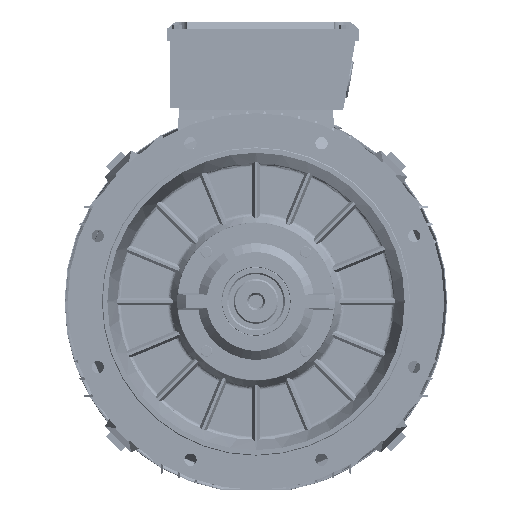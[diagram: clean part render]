
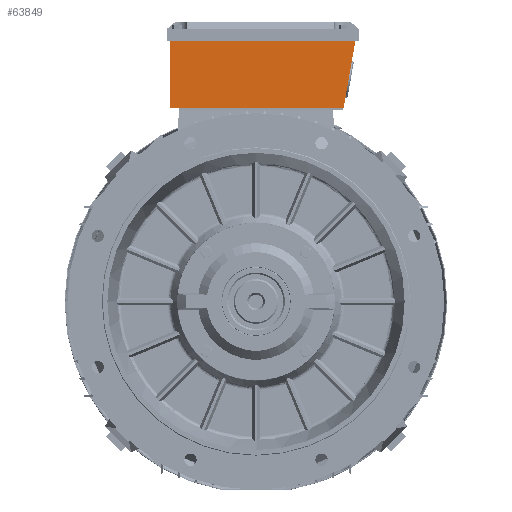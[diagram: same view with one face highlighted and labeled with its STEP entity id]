
A CAD part, left-side view. The second image highlights one B-rep face of the part: STEP entity #63849.
In plain terms, the highlighted planar face has unit normal (-1, 0, 0).
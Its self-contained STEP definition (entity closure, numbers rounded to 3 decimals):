
#10555 = VERTEX_POINT ( 'NONE', #324259 ) ;
#17192 = ORIENTED_EDGE ( 'NONE', *, *, #343020, .T. ) ;
#22545 = LINE ( 'NONE', #353106, #252942 ) ;
#23950 = ORIENTED_EDGE ( 'NONE', *, *, #281914, .T. ) ;
#29008 = FACE_OUTER_BOUND ( 'NONE', #133024, .T. ) ;
#47622 = LINE ( 'NONE', #356102, #316415 ) ;
#63849 = ADVANCED_FACE ( 'NONE', ( #29008 ), #197931, .T. ) ;
#72700 = CARTESIAN_POINT ( 'NONE',  ( -62.408, 130.487, 278.917 ) ) ;
#121788 = DIRECTION ( 'NONE',  ( 0., 1., 0. ) ) ;
#123473 = VERTEX_POINT ( 'NONE', #72700 ) ;
#127771 = DIRECTION ( 'NONE',  ( 0., 0., -1. ) ) ;
#133024 = EDGE_LOOP ( 'NONE', ( #23950, #307151, #310790, #17192 ) ) ;
#141009 = DIRECTION ( 'NONE',  ( 0., -1., 0. ) ) ;
#146407 = EDGE_CURVE ( 'NONE', #10555, #214160, #255879, .T. ) ;
#163169 = CARTESIAN_POINT ( 'NONE',  ( -62.408, 116.987, 275.917 ) ) ;
#192726 = VECTOR ( 'NONE', #121788, 1000. ) ;
#197931 = PLANE ( 'NONE',  #282108 ) ;
#202866 = EDGE_CURVE ( 'NONE', #301288, #10555, #22545, .T. ) ;
#214160 = VERTEX_POINT ( 'NONE', #249686 ) ;
#223694 = DIRECTION ( 'NONE',  ( -1., 0., 0. ) ) ;
#226568 = CARTESIAN_POINT ( 'NONE',  ( -62.408, 130.487, 375.917 ) ) ;
#244717 = DIRECTION ( 'NONE',  ( 0., -0.174, 0.985 ) ) ;
#249686 = CARTESIAN_POINT ( 'NONE',  ( -62.408, 130.487, 375.917 ) ) ;
#252942 = VECTOR ( 'NONE', #244717, 1000. ) ;
#255879 = LINE ( 'NONE', #226568, #192726 ) ;
#265548 = CARTESIAN_POINT ( 'NONE',  ( -62.408, 130.487, 278.917 ) ) ;
#281914 = EDGE_CURVE ( 'NONE', #123473, #301288, #47622, .T. ) ;
#282108 = AXIS2_PLACEMENT_3D ( 'NONE', #163169, #223694, #141009 ) ;
#291608 = CARTESIAN_POINT ( 'NONE',  ( -62.408, -123.442, 278.917 ) ) ;
#301288 = VERTEX_POINT ( 'NONE', #291608 ) ;
#305748 = VECTOR ( 'NONE', #127771, 1000. ) ;
#307151 = ORIENTED_EDGE ( 'NONE', *, *, #202866, .T. ) ;
#308216 = DIRECTION ( 'NONE',  ( 0., -1., 0. ) ) ;
#310790 = ORIENTED_EDGE ( 'NONE', *, *, #146407, .T. ) ;
#316415 = VECTOR ( 'NONE', #308216, 1000. ) ;
#324259 = CARTESIAN_POINT ( 'NONE',  ( -62.408, -140.545, 375.917 ) ) ;
#343020 = EDGE_CURVE ( 'NONE', #214160, #123473, #348195, .T. ) ;
#348195 = LINE ( 'NONE', #265548, #305748 ) ;
#353106 = CARTESIAN_POINT ( 'NONE',  ( -62.408, -122.913, 275.917 ) ) ;
#356102 = CARTESIAN_POINT ( 'NONE',  ( -62.408, 130.487, 278.917 ) ) ;
